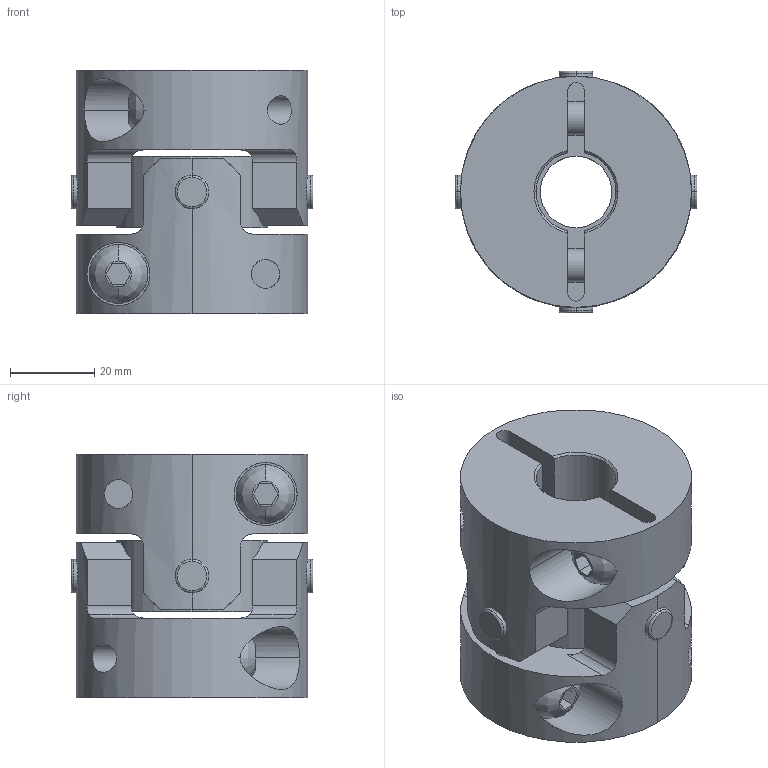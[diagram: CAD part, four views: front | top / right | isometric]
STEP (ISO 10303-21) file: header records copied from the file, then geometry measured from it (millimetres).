
FILE_DESCRIPTION((''),'2;1');
FILE_NAME('UA-55C-18×19.stp','2013-05-22T14:09:27',(''),(''),'AutoCAD STEP 2000i','AutoCAD 2000i',', , ');
FILE_SCHEMA(('CONFIG_CONTROL_DESIGN'));
Length unit declared in the file: millimetre
Products named in the file (8): UA-55C-18×18; 忣兜1; UA-5502-D18-1; BTN-M8; UA-5502-D18; UA-5502-D10-1; UA-5502-D10; UA55-SEN
Assembly tree (10 placements, depth 3):
  UA-55C-18×18
    忣兜1
    UA-5502-D18-1
      BTN-M8
    UA-5502-D18
      BTN-M8
    UA-5502-D10-1
      BTN-M8
    UA-5502-D10
      BTN-M8
    UA55-SEN
Bounding box: 57.55 x 57.55 x 58 mm (x, y, z)
Volume: 98423.3 mm3; surface area: 30605.6 mm2
Topology: 1 solids, 1 shells, 206 faces, 554 edges, 364 vertices
Faces by surface type: cylinder 96, plane 78, cone 16, bspline 8, torus 8
Entity records: 8435 total; most frequent: CARTESIAN_POINT 3079, ORIENTED_EDGE 1108, DIRECTION 1072, EDGE_CURVE 554, AXIS2_PLACEMENT_3D 413, VERTEX_POINT 364, VECTOR 246, LINE 246
